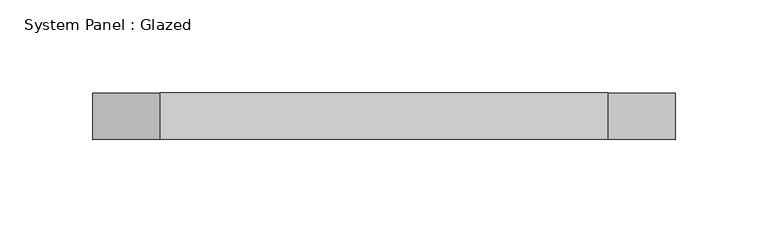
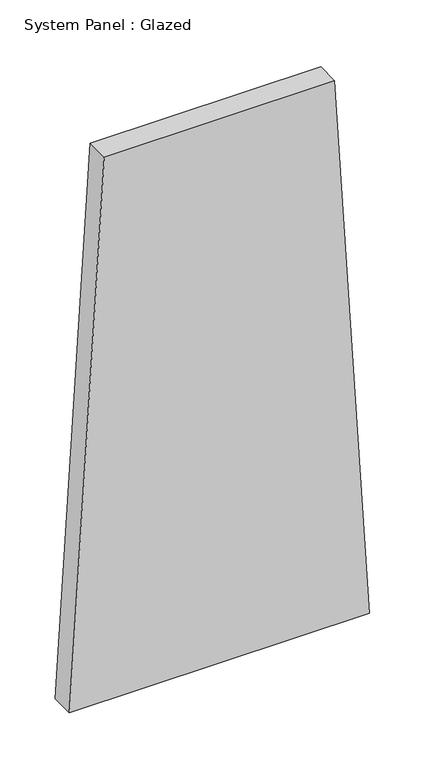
"""IFC4 building model written with IfcOpenShell, lengths in millimetres: plate geometry, System Panel : Glazed."""

from ifc_helpers import new_model, si_unit, frame, origin, place, context, project, spatial, polyline, outline, extrude, source, transform, mapped, element, save


def system_panel_glazed_337ec685(model_context):
    return source(origin(), model_context, "Body", "SweptSolid", [
        extrude(outline(polyline([(0.0, -156.4663674), (0.0, 156.4663674), (598.9022578, 120.1884737), (598.9022578, -120.1884737), (0.0, -156.4663674)])), frame((0.0, 24.5, 0.0), z_axis=(0.0, 1.0, 0.0), x_axis=(0.0, 0.0, 1.0)), (0.0, 0.0, 1.0), 25.0),
    ])


if __name__ == "__main__":
    model = new_model("IFC4")
    model_context = context("Model", 3, world=origin())
    ifc_project = project(units=[si_unit("LENGTHUNIT", "METRE", prefix="MILLI")], contexts=[model_context])
    site = spatial("IfcSite", under=ifc_project)
    building = spatial("IfcBuilding", under=site)
    placement = place(None, origin())
    system_panel_glazed_shape = system_panel_glazed_337ec685(model_context)
    element("IfcPlate", 1, ObjectType="System Panel : Glazed", at=placement, inside=building, context=model_context, shape_type="MappedRepresentation", body=[
        mapped(system_panel_glazed_shape, transform((0.0, 0.0, 0.0), x_axis=(1.0, 0.0, 0.0), y_axis=(0.0, 1.0, 0.0), z_axis=(0.0, 0.0, 1.0))),
    ])
    save(model, "model.ifc")
